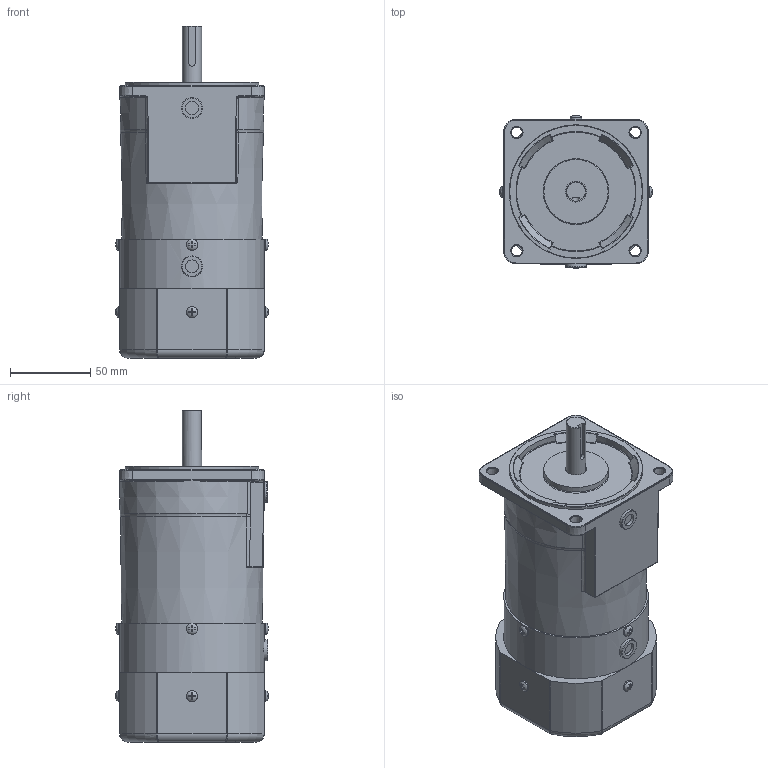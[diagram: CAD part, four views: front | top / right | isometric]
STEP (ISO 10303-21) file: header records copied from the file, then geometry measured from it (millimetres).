
FILE_DESCRIPTION (( 'STEP AP214' ), '1' );
FILE_NAME ('9BDG¤±-60FWH.STEP', '2025-01-13T07:47:31', ( '' ), ( '' ), 'SwSTEP 2.0', 'SolidWorks 2024', '' );
FILE_SCHEMA (( 'AUTOMOTIVE_DESIGN' ));
Length unit declared in the file: millimetre
Products named in the file (1): 9BDGㅁ-60FWH
Bounding box: 95.09 x 95.09 x 206.5 mm (x, y, z)
Volume: 1118426.3 mm3; surface area: 72294.1 mm2
Topology: 1 solids, 1 shells, 457 faces, 1162 edges, 729 vertices
Faces by surface type: plane 205, cylinder 146, torus 36, cone 32, bspline 32, sphere 6
Full cylindrical faces by diameter (mm): 6.1 x1, 6.5 x4, 7 x8, 8 x2, 12 x1, 13 x3, 40 x1, 83.1 x1, 90 x1
Entity records: 15065 total; most frequent: CARTESIAN_POINT 4519, DIRECTION 2172, ORIENTED_EDGE 2158, EDGE_CURVE 1079, AXIS2_PLACEMENT_3D 834, VERTEX_POINT 711, EDGE_LOOP 552, VECTOR 504
